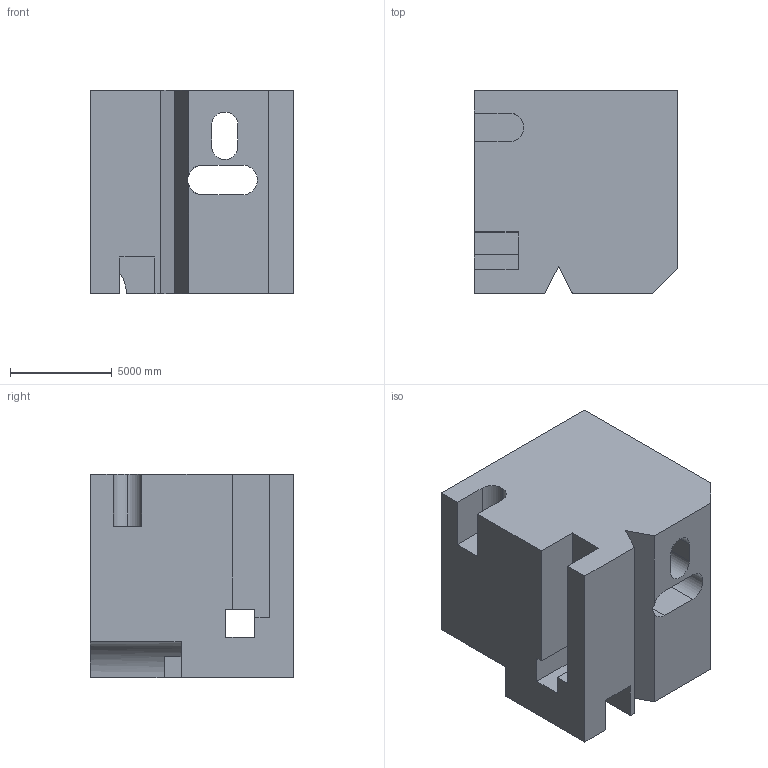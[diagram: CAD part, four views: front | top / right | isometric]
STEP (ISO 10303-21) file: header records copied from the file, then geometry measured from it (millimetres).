
FILE_DESCRIPTION (( 'STEP AP203' ), '1' );
FILE_NAME ('1984.STEP', '2022-08-23T10:16:01', ( 'user' ), ( '' ), 'SwSTEP 2.0', 'SolidWorks 2021', '' );
FILE_SCHEMA (( 'CONFIG_CONTROL_DESIGN' ));
Length unit declared in the file: centimetre
Products named in the file (1): 1984
Bounding box: 10000 x 10000 x 10000 mm (x, y, z)
Volume: 820903160305.4 mm3; surface area: 852113581.6 mm2
Topology: 1 solids, 1 shells, 46 faces, 135 edges, 90 vertices
Faces by surface type: plane 38, cylinder 8
Entity records: 1606 total; most frequent: CARTESIAN_POINT 275, ORIENTED_EDGE 270, DIRECTION 246, EDGE_CURVE 135, LINE 116, VECTOR 116, VERTEX_POINT 90, AXIS2_PLACEMENT_3D 65
